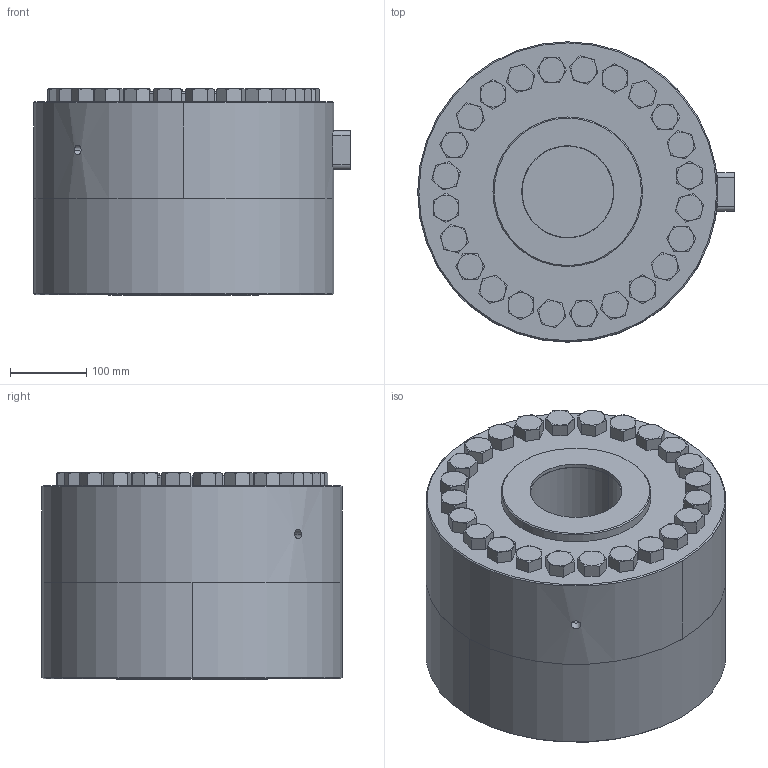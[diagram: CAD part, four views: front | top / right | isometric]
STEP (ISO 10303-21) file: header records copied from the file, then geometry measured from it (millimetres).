
FILE_DESCRIPTION (( 'STEP AP203' ), '1' );
FILE_NAME ('Interface 1260-2700KN-B.STEP', '2011-06-07T15:40:29', ( ' ' ), ( '' ), 'SwSTEP 2.0', 'SolidWorks 2002349', '' );
FILE_SCHEMA (( 'CONFIG_CONTROL_DESIGN' ));
Length unit declared in the file: inch
Products named in the file (1): Interface 1260-2700KN-B
Bounding box: 415.29 x 393.7 x 271.07 mm (x, y, z)
Volume: 29217717.4 mm3; surface area: 699402.6 mm2
Topology: 1 solids, 1 shells, 559 faces, 1314 edges, 810 vertices
Faces by surface type: plane 250, cone 197, cylinder 85, bspline 24, sphere 3
Entity records: 17627 total; most frequent: CARTESIAN_POINT 5520, ORIENTED_EDGE 2616, DIRECTION 2300, EDGE_CURVE 1308, AXIS2_PLACEMENT_3D 894, VERTEX_POINT 810, EDGE_LOOP 618, FACE_OUTER_BOUND 559
